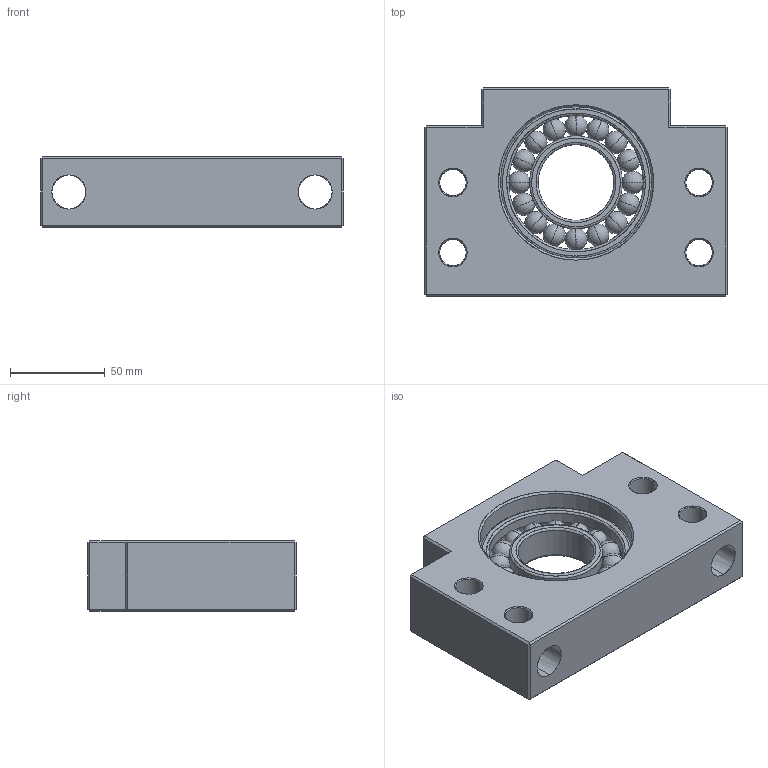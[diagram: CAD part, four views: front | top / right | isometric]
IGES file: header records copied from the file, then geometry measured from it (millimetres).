
Start section: SolidWorks IGES file using analytic representation for surfaces
Bounding box: 160 x 110 x 37 mm (x, y, z)
Surface area: 81742.3 mm2 (no closed solid volume)
Topology: 0 solids, 0 shells, 164 faces, 2452 edges, 2420 vertices
Faces by surface type: revolution 92, bspline 72
